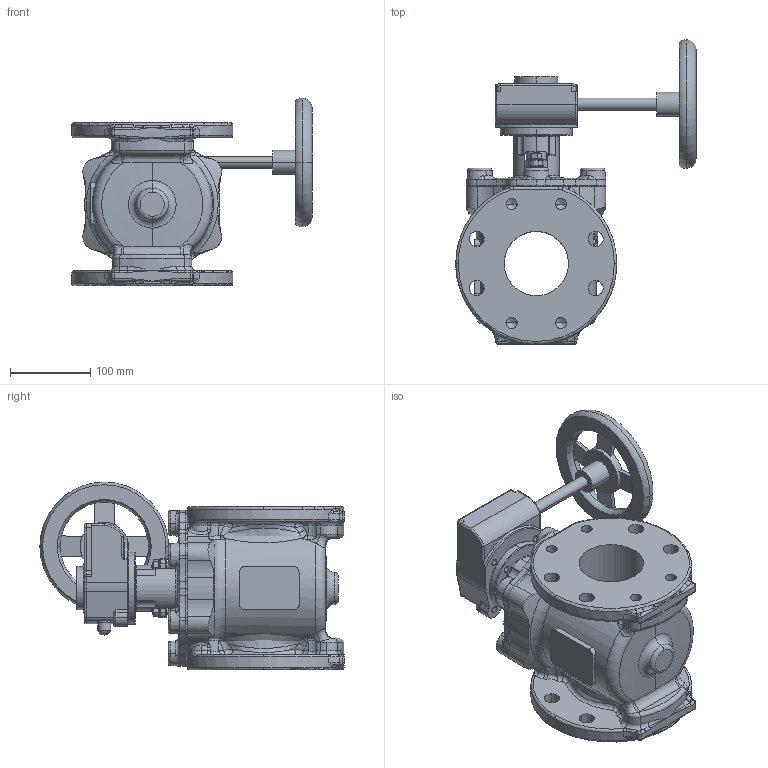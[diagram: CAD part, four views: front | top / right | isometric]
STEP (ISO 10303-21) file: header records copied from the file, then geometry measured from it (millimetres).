
FILE_DESCRIPTION (( 'STEP AP203' ), '1' );
FILE_NAME ('O_764_01_DN080_1XXXXXX020_REV01.step', '2021-02-01T09:25:33', ( '' ), ( '' ), 'SwSTEP 2.0', 'SolidWorks 2019', '' );
FILE_SCHEMA (( 'CONFIG_CONTROL_DESIGN' ));
Length unit declared in the file: millimetre
Products named in the file (1): O_764_01_DN080_1XXXXXX020_REV01
Bounding box: 298.78 x 378.14 x 233.5 mm (x, y, z)
Volume: 5141013.2 mm3; surface area: 418768.8 mm2
Topology: 1 solids, 1 shells, 1105 faces, 2789 edges, 1646 vertices
Faces by surface type: cylinder 329, torus 241, bspline 221, plane 210, cone 88, sphere 16
Entity records: 46711 total; most frequent: CARTESIAN_POINT 22001, ORIENTED_EDGE 5410, DIRECTION 5053, EDGE_CURVE 2705, AXIS2_PLACEMENT_3D 2200, VERTEX_POINT 1646, CIRCLE 1315, EDGE_LOOP 1183
